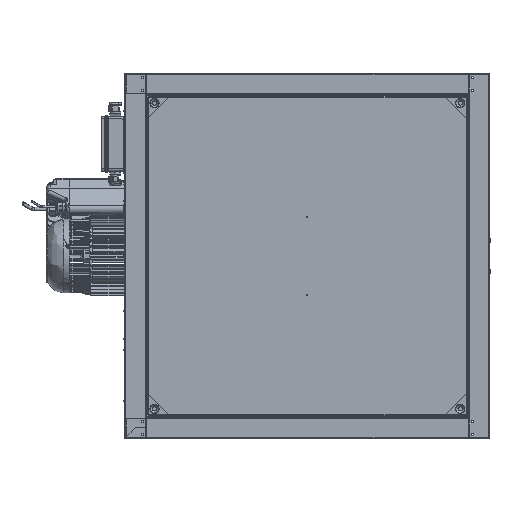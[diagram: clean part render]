
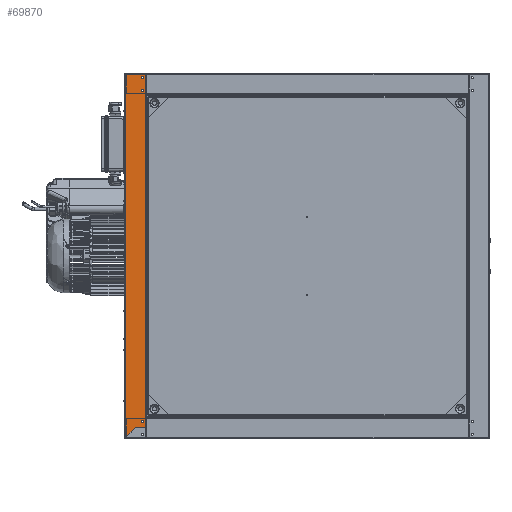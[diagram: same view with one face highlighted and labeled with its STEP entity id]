
A CAD part, left-side view. The second image highlights one B-rep face of the part: STEP entity #69870.
In plain terms, the highlighted planar face has unit normal (-1, 0, 0).
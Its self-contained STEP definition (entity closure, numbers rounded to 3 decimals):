
#478 = LINE ( 'NONE', #96921, #23559 ) ;
#678 = CARTESIAN_POINT ( 'NONE',  ( -350., 329.75, -329.1 ) ) ;
#1374 = AXIS2_PLACEMENT_3D ( 'NONE', #120596, #7314, #95984 ) ;
#2746 = ORIENTED_EDGE ( 'NONE', *, *, #61659, .T. ) ;
#3138 = EDGE_CURVE ( 'NONE', #59316, #33292, #93477, .T. ) ;
#4130 = DIRECTION ( 'NONE',  ( 0., -1., 0. ) ) ;
#4171 = CARTESIAN_POINT ( 'NONE',  ( -350., 310.7, -310.05 ) ) ;
#5332 = DIRECTION ( 'NONE',  ( 0., 0., -1. ) ) ;
#5922 = DIRECTION ( 'NONE',  ( 0., 0.707, -0.707 ) ) ;
#6308 = CARTESIAN_POINT ( 'NONE',  ( -350., 310.2, -310.05 ) ) ;
#6799 = EDGE_CURVE ( 'NONE', #126261, #55153, #24822, .T. ) ;
#7038 = ORIENTED_EDGE ( 'NONE', *, *, #7781, .F. ) ;
#7314 = DIRECTION ( 'NONE',  ( -1., 0., 0. ) ) ;
#7781 = EDGE_CURVE ( 'NONE', #55153, #126261, #95657, .T. ) ;
#8154 = DIRECTION ( 'NONE',  ( -1., 0., 0. ) ) ;
#8939 = VERTEX_POINT ( 'NONE', #16517 ) ;
#9136 = VERTEX_POINT ( 'NONE', #80500 ) ;
#10485 = FACE_BOUND ( 'NONE', #75082, .T. ) ;
#14253 = EDGE_CURVE ( 'NONE', #8939, #18362, #125838, .T. ) ;
#14448 = LINE ( 'NONE', #46011, #66928 ) ;
#15242 = CARTESIAN_POINT ( 'NONE',  ( -350., 316., -317.2 ) ) ;
#16090 = DIRECTION ( 'NONE',  ( 0., 1., 0. ) ) ;
#16482 = VECTOR ( 'NONE', #5922, 1000. ) ;
#16517 = CARTESIAN_POINT ( 'NONE',  ( -350., 318.1, 341.7 ) ) ;
#16956 = DIRECTION ( 'NONE',  ( -1., 0., 0. ) ) ;
#18141 = LINE ( 'NONE', #4171, #116884 ) ;
#18362 = VERTEX_POINT ( 'NONE', #26626 ) ;
#18397 = DIRECTION ( 'NONE',  ( 0., 1., 0. ) ) ;
#18429 = LINE ( 'NONE', #23108, #94080 ) ;
#22793 = EDGE_LOOP ( 'NONE', ( #25767, #57933, #94988, #2746, #74225, #109457, #124659, #25148, #100473 ) ) ;
#23108 = CARTESIAN_POINT ( 'NONE',  ( -350., 348., 348.95 ) ) ;
#23559 = VECTOR ( 'NONE', #18397, 1000. ) ;
#24822 = CIRCLE ( 'NONE', #35076, 2.1 ) ;
#25117 = DIRECTION ( 'NONE',  ( 0., -1., 0. ) ) ;
#25148 = ORIENTED_EDGE ( 'NONE', *, *, #104634, .T. ) ;
#25283 = CARTESIAN_POINT ( 'NONE',  ( -350., 349.1, -348.45 ) ) ;
#25492 = EDGE_CURVE ( 'NONE', #9136, #74048, #18429, .T. ) ;
#25767 = ORIENTED_EDGE ( 'NONE', *, *, #122509, .T. ) ;
#26626 = CARTESIAN_POINT ( 'NONE',  ( -350., 313.9, 341.7 ) ) ;
#27051 = CARTESIAN_POINT ( 'NONE',  ( -350., 316., 341.7 ) ) ;
#29633 = ORIENTED_EDGE ( 'NONE', *, *, #6799, .F. ) ;
#31083 = ORIENTED_EDGE ( 'NONE', *, *, #74994, .F. ) ;
#32960 = DIRECTION ( 'NONE',  ( 0., 0., -1. ) ) ;
#33156 = VECTOR ( 'NONE', #114955, 1000. ) ;
#33292 = VERTEX_POINT ( 'NONE', #117760 ) ;
#33923 = EDGE_CURVE ( 'NONE', #18362, #8939, #54121, .T. ) ;
#35076 = AXIS2_PLACEMENT_3D ( 'NONE', #60180, #16956, #117401 ) ;
#38499 = EDGE_LOOP ( 'NONE', ( #29633, #7038 ) ) ;
#39204 = VERTEX_POINT ( 'NONE', #48084 ) ;
#39771 = FACE_BOUND ( 'NONE', #82451, .T. ) ;
#40295 = CARTESIAN_POINT ( 'NONE',  ( -350., 348., -347.35 ) ) ;
#40410 = EDGE_CURVE ( 'NONE', #69550, #74048, #121360, .T. ) ;
#42420 = DIRECTION ( 'NONE',  ( 0., -1., 0. ) ) ;
#44177 = VERTEX_POINT ( 'NONE', #77931 ) ;
#45532 = EDGE_CURVE ( 'NONE', #65820, #39204, #77381, .T. ) ;
#46011 = CARTESIAN_POINT ( 'NONE',  ( -350., 310.2, -329.1 ) ) ;
#48084 = CARTESIAN_POINT ( 'NONE',  ( -350., 313.9, -317.2 ) ) ;
#52845 = CARTESIAN_POINT ( 'NONE',  ( -350., 316., 341.7 ) ) ;
#54121 = CIRCLE ( 'NONE', #122748, 2.1 ) ;
#55153 = VERTEX_POINT ( 'NONE', #104198 ) ;
#55307 = PLANE ( 'NONE',  #125156 ) ;
#55397 = ORIENTED_EDGE ( 'NONE', *, *, #33923, .F. ) ;
#55940 = DIRECTION ( 'NONE',  ( 0., -1., 0. ) ) ;
#56378 = LINE ( 'NONE', #6308, #33156 ) ;
#57933 = ORIENTED_EDGE ( 'NONE', *, *, #25492, .T. ) ;
#58625 = EDGE_CURVE ( 'NONE', #112459, #80050, #79592, .T. ) ;
#59316 = VERTEX_POINT ( 'NONE', #83307 ) ;
#60180 = CARTESIAN_POINT ( 'NONE',  ( -350., 316., 317.2 ) ) ;
#61659 = EDGE_CURVE ( 'NONE', #69550, #96595, #14448, .T. ) ;
#62252 = CARTESIAN_POINT ( 'NONE',  ( -350., 310.7, 311.65 ) ) ;
#62555 = CARTESIAN_POINT ( 'NONE',  ( -350., 313.9, 317.2 ) ) ;
#62557 = CARTESIAN_POINT ( 'NONE',  ( -350., 318.1, -317.2 ) ) ;
#62777 = DIRECTION ( 'NONE',  ( 0., -1., 0. ) ) ;
#63173 = DIRECTION ( 'NONE',  ( -1., 0., 0. ) ) ;
#64135 = VECTOR ( 'NONE', #5332, 1000. ) ;
#65820 = VERTEX_POINT ( 'NONE', #62557 ) ;
#66115 = AXIS2_PLACEMENT_3D ( 'NONE', #122208, #63173, #4130 ) ;
#66928 = VECTOR ( 'NONE', #55940, 1000. ) ;
#69550 = VERTEX_POINT ( 'NONE', #678 ) ;
#69870 = ADVANCED_FACE ( 'NONE', ( #39771, #115401, #10485, #112292 ), #55307, .F. ) ;
#70342 = VECTOR ( 'NONE', #113779, 1000. ) ;
#72625 = CARTESIAN_POINT ( 'NONE',  ( -350., 310.2, 348. ) ) ;
#72670 = ORIENTED_EDGE ( 'NONE', *, *, #45532, .F. ) ;
#74048 = VERTEX_POINT ( 'NONE', #40295 ) ;
#74225 = ORIENTED_EDGE ( 'NONE', *, *, #87479, .T. ) ;
#74346 = CARTESIAN_POINT ( 'NONE',  ( -350., 310.7, 348.95 ) ) ;
#74758 = CARTESIAN_POINT ( 'NONE',  ( -350., 350., 348.95 ) ) ;
#74994 = EDGE_CURVE ( 'NONE', #39204, #65820, #108256, .T. ) ;
#75082 = EDGE_LOOP ( 'NONE', ( #55397, #95218 ) ) ;
#75185 = DIRECTION ( 'NONE',  ( 1., 0., 0. ) ) ;
#77381 = CIRCLE ( 'NONE', #66115, 2.1 ) ;
#77931 = CARTESIAN_POINT ( 'NONE',  ( -350., 310.2, -310.05 ) ) ;
#79592 = LINE ( 'NONE', #103901, #70342 ) ;
#80050 = VERTEX_POINT ( 'NONE', #72625 ) ;
#80500 = CARTESIAN_POINT ( 'NONE',  ( -350., 348., 348. ) ) ;
#81848 = EDGE_CURVE ( 'NONE', #44177, #33292, #18141, .T. ) ;
#82451 = EDGE_LOOP ( 'NONE', ( #31083, #72670 ) ) ;
#83307 = CARTESIAN_POINT ( 'NONE',  ( -350., 310.7, 311.65 ) ) ;
#84251 = DIRECTION ( 'NONE',  ( -1., 0., 0. ) ) ;
#84574 = VECTOR ( 'NONE', #42420, 1000. ) ;
#87479 = EDGE_CURVE ( 'NONE', #96595, #44177, #56378, .T. ) ;
#87671 = LINE ( 'NONE', #62252, #84574 ) ;
#92552 = AXIS2_PLACEMENT_3D ( 'NONE', #15242, #84251, #25117 ) ;
#92997 = DIRECTION ( 'NONE',  ( 0., 1., 0. ) ) ;
#93477 = LINE ( 'NONE', #74346, #64135 ) ;
#94080 = VECTOR ( 'NONE', #32960, 1000. ) ;
#94582 = CARTESIAN_POINT ( 'NONE',  ( -350., 310.2, 311.65 ) ) ;
#94988 = ORIENTED_EDGE ( 'NONE', *, *, #40410, .F. ) ;
#95218 = ORIENTED_EDGE ( 'NONE', *, *, #14253, .F. ) ;
#95657 = CIRCLE ( 'NONE', #1374, 2.1 ) ;
#95984 = DIRECTION ( 'NONE',  ( 0., -1., 0. ) ) ;
#96595 = VERTEX_POINT ( 'NONE', #119226 ) ;
#96921 = CARTESIAN_POINT ( 'NONE',  ( -350., 310.2, 348. ) ) ;
#100473 = ORIENTED_EDGE ( 'NONE', *, *, #58625, .T. ) ;
#103901 = CARTESIAN_POINT ( 'NONE',  ( -350., 310.2, 311.65 ) ) ;
#104198 = CARTESIAN_POINT ( 'NONE',  ( -350., 318.1, 317.2 ) ) ;
#104634 = EDGE_CURVE ( 'NONE', #59316, #112459, #87671, .T. ) ;
#106220 = DIRECTION ( 'NONE',  ( 0., -1., 0. ) ) ;
#108256 = CIRCLE ( 'NONE', #92552, 2.1 ) ;
#109457 = ORIENTED_EDGE ( 'NONE', *, *, #81848, .T. ) ;
#112292 = FACE_OUTER_BOUND ( 'NONE', #22793, .T. ) ;
#112459 = VERTEX_POINT ( 'NONE', #94582 ) ;
#113779 = DIRECTION ( 'NONE',  ( 0., 0., 1. ) ) ;
#114955 = DIRECTION ( 'NONE',  ( 0., 0., 1. ) ) ;
#115401 = FACE_BOUND ( 'NONE', #38499, .T. ) ;
#116884 = VECTOR ( 'NONE', #92997, 1000. ) ;
#117401 = DIRECTION ( 'NONE',  ( 0., -1., 0. ) ) ;
#117760 = CARTESIAN_POINT ( 'NONE',  ( -350., 310.7, -310.05 ) ) ;
#119226 = CARTESIAN_POINT ( 'NONE',  ( -350., 310.2, -329.1 ) ) ;
#120596 = CARTESIAN_POINT ( 'NONE',  ( -350., 316., 317.2 ) ) ;
#121360 = LINE ( 'NONE', #25283, #16482 ) ;
#121809 = DIRECTION ( 'NONE',  ( -1., 0., 0. ) ) ;
#122208 = CARTESIAN_POINT ( 'NONE',  ( -350., 316., -317.2 ) ) ;
#122509 = EDGE_CURVE ( 'NONE', #80050, #9136, #478, .T. ) ;
#122748 = AXIS2_PLACEMENT_3D ( 'NONE', #52845, #121809, #62777 ) ;
#124659 = ORIENTED_EDGE ( 'NONE', *, *, #3138, .F. ) ;
#125156 = AXIS2_PLACEMENT_3D ( 'NONE', #74758, #75185, #16090 ) ;
#125838 = CIRCLE ( 'NONE', #126455, 2.1 ) ;
#126261 = VERTEX_POINT ( 'NONE', #62555 ) ;
#126455 = AXIS2_PLACEMENT_3D ( 'NONE', #27051, #8154, #106220 ) ;
